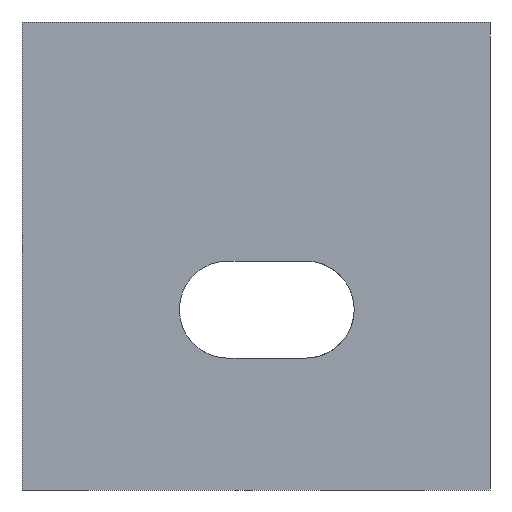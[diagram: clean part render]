
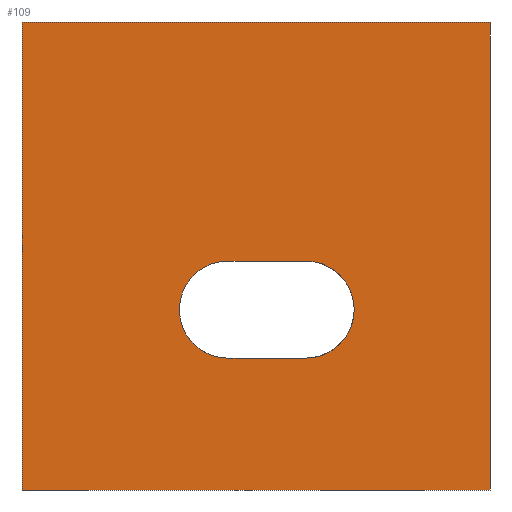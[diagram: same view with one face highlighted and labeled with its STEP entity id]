
A CAD part, front view. The second image highlights one B-rep face of the part: STEP entity #109.
In plain terms, the highlighted planar face has unit normal (0, -1, 0).
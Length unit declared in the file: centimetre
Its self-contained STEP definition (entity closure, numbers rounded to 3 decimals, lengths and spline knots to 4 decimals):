
#10 = EDGE_CURVE ( 'NONE', #238, #819, #1101, .T. ) ;
#15 = LINE ( 'NONE', #895, #1158 ) ;
#64 = VERTEX_POINT ( 'NONE', #618 ) ;
#77 = DIRECTION ( 'NONE',  ( -1., 0., 0. ) ) ;
#99 = EDGE_CURVE ( 'NONE', #1576, #259, #1524, .T. ) ;
#109 = ADVANCED_FACE ( 'NONE', ( #254, #1109 ), #1497, .F. ) ;
#112 = CARTESIAN_POINT ( 'NONE',  ( 606.098, 0., 385.4885 ) ) ;
#113 = AXIS2_PLACEMENT_3D ( 'NONE', #731, #1626, #876 ) ;
#124 = DIRECTION ( 'NONE',  ( 0., 0., 1. ) ) ;
#144 = CARTESIAN_POINT ( 'NONE',  ( 0., 0., 0. ) ) ;
#187 = EDGE_LOOP ( 'NONE', ( #630, #1521, #643, #552 ) ) ;
#204 = LINE ( 'NONE', #703, #1615 ) ;
#205 = EDGE_LOOP ( 'NONE', ( #1510, #1530, #444, #785 ) ) ;
#227 = CARTESIAN_POINT ( 'NONE',  ( 606.098, 0., 281.7648 ) ) ;
#234 = EDGE_CURVE ( 'NONE', #238, #759, #516, .T. ) ;
#238 = VERTEX_POINT ( 'NONE', #667 ) ;
#243 = EDGE_CURVE ( 'NONE', #819, #64, #1302, .T. ) ;
#254 = FACE_BOUND ( 'NONE', #187, .T. ) ;
#259 = VERTEX_POINT ( 'NONE', #285 ) ;
#285 = CARTESIAN_POINT ( 'NONE',  ( 440.0462, 0., 489.2122 ) ) ;
#342 = DIRECTION ( 'NONE',  ( 0., 1., 0. ) ) ;
#347 = EDGE_CURVE ( 'NONE', #759, #64, #15, .T. ) ;
#354 = CARTESIAN_POINT ( 'NONE',  ( 606.098, 0., 489.2122 ) ) ;
#355 = VECTOR ( 'NONE', #1198, 100. ) ;
#444 = ORIENTED_EDGE ( 'NONE', *, *, #234, .F. ) ;
#477 = CARTESIAN_POINT ( 'NONE',  ( 0., 0., 1000. ) ) ;
#516 = LINE ( 'NONE', #1020, #1319 ) ;
#552 = ORIENTED_EDGE ( 'NONE', *, *, #1235, .T. ) ;
#556 = CIRCLE ( 'NONE', #1323, 103.7237 ) ;
#610 = VECTOR ( 'NONE', #1167, 100. ) ;
#618 = CARTESIAN_POINT ( 'NONE',  ( 1000., 0., 0. ) ) ;
#630 = ORIENTED_EDGE ( 'NONE', *, *, #755, .T. ) ;
#643 = ORIENTED_EDGE ( 'NONE', *, *, #728, .T. ) ;
#657 = CARTESIAN_POINT ( 'NONE',  ( 440.0462, 0., 281.7648 ) ) ;
#667 = CARTESIAN_POINT ( 'NONE',  ( 0., 0., 1000. ) ) ;
#689 = VECTOR ( 'NONE', #1466, 100. ) ;
#703 = CARTESIAN_POINT ( 'NONE',  ( 440.0462, 0., 281.7648 ) ) ;
#713 = CARTESIAN_POINT ( 'NONE',  ( 1000., 0., 1000. ) ) ;
#728 = EDGE_CURVE ( 'NONE', #259, #1081, #1114, .T. ) ;
#731 = CARTESIAN_POINT ( 'NONE',  ( 440.0462, 0., 385.4885 ) ) ;
#754 = CARTESIAN_POINT ( 'NONE',  ( 0., 0., 1000. ) ) ;
#755 = EDGE_CURVE ( 'NONE', #1295, #1576, #204, .T. ) ;
#759 = VERTEX_POINT ( 'NONE', #713 ) ;
#785 = ORIENTED_EDGE ( 'NONE', *, *, #10, .T. ) ;
#819 = VERTEX_POINT ( 'NONE', #144 ) ;
#876 = DIRECTION ( 'NONE',  ( 0., 0., -1. ) ) ;
#895 = CARTESIAN_POINT ( 'NONE',  ( 1000., 0., 1000. ) ) ;
#1020 = CARTESIAN_POINT ( 'NONE',  ( 0., 0., 1000. ) ) ;
#1024 = DIRECTION ( 'NONE',  ( 0., 0., -1. ) ) ;
#1026 = AXIS2_PLACEMENT_3D ( 'NONE', #754, #1363, #124 ) ;
#1034 = CARTESIAN_POINT ( 'NONE',  ( 0., 0., 0. ) ) ;
#1081 = VERTEX_POINT ( 'NONE', #1365 ) ;
#1101 = LINE ( 'NONE', #477, #355 ) ;
#1109 = FACE_OUTER_BOUND ( 'NONE', #205, .T. ) ;
#1114 = LINE ( 'NONE', #354, #689 ) ;
#1158 = VECTOR ( 'NONE', #1024, 100. ) ;
#1167 = DIRECTION ( 'NONE',  ( 1., 0., 0. ) ) ;
#1198 = DIRECTION ( 'NONE',  ( 0., 0., -1. ) ) ;
#1235 = EDGE_CURVE ( 'NONE', #1081, #1295, #556, .T. ) ;
#1295 = VERTEX_POINT ( 'NONE', #227 ) ;
#1302 = LINE ( 'NONE', #1034, #610 ) ;
#1319 = VECTOR ( 'NONE', #1400, 100. ) ;
#1323 = AXIS2_PLACEMENT_3D ( 'NONE', #112, #342, #1491 ) ;
#1363 = DIRECTION ( 'NONE',  ( 0., 1., 0. ) ) ;
#1365 = CARTESIAN_POINT ( 'NONE',  ( 606.098, 0., 489.2122 ) ) ;
#1400 = DIRECTION ( 'NONE',  ( 1., 0., 0. ) ) ;
#1466 = DIRECTION ( 'NONE',  ( 1., 0., 0. ) ) ;
#1491 = DIRECTION ( 'NONE',  ( 0., 0., -1. ) ) ;
#1497 = PLANE ( 'NONE',  #1026 ) ;
#1510 = ORIENTED_EDGE ( 'NONE', *, *, #243, .T. ) ;
#1521 = ORIENTED_EDGE ( 'NONE', *, *, #99, .T. ) ;
#1524 = CIRCLE ( 'NONE', #113, 103.7237 ) ;
#1530 = ORIENTED_EDGE ( 'NONE', *, *, #347, .F. ) ;
#1576 = VERTEX_POINT ( 'NONE', #657 ) ;
#1615 = VECTOR ( 'NONE', #77, 100. ) ;
#1626 = DIRECTION ( 'NONE',  ( 0., 1., 0. ) ) ;
